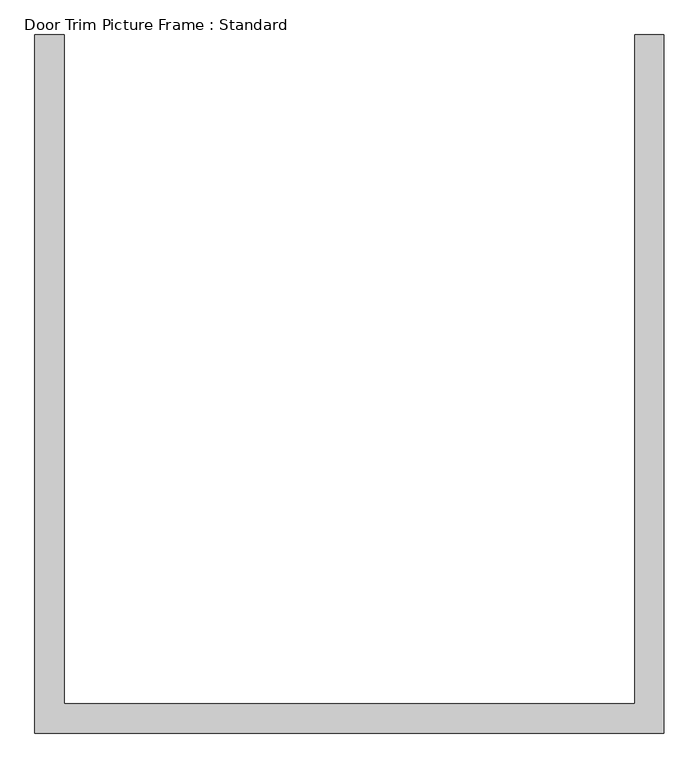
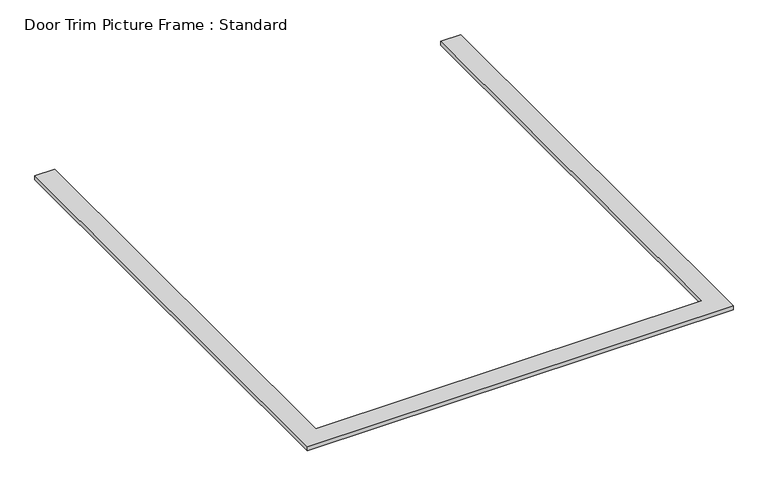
"""IFC4 building model written with IfcOpenShell, lengths in millimetres: proxy geometry, Door Trim Picture Frame : Standard."""

import ifcopenshell
import ifcopenshell.guid

model = None  # the IFC model being written
_history = None  # IfcOwnerHistory: only IFC2X3 demands one
_inside = {}  # id of a spatial element -> (the spatial element, [elements in it])
_under = {}  # id of a project, library or spatial element -> (it, [spatial elements below it])
_declared = {}  # id of a project -> (the project, [libraries it declares])
_typed = {}  # id of a type object -> (the type object, [elements of that type])
_made_of = {}  # id of a material, layer set ... -> (it, [elements and type objects made of it])


def new_model(schema):
    """Start an empty IFC model of exactly this schema.

    Asked for "IFC4X3", IfcOpenShell would pick the latest addendum, in which some entities
    have other attributes; the version numbers below select the first issue.
    IFC2X3 requires an IfcOwnerHistory on every rooted entity: one is made here for all.
    """
    global model, _history
    if schema == "IFC4X3":
        model = ifcopenshell.file(schema_version=(4, 3, 0, 0))
    else:
        model = ifcopenshell.file(schema=schema)
    _inside.clear()
    _under.clear()
    _declared.clear()
    _typed.clear()
    _made_of.clear()
    _history = None
    if model.schema == "IFC2X3":
        org = make("IfcOrganization", Name="unknown")
        user = make(
            "IfcPersonAndOrganization",
            ThePerson=make("IfcPerson", FamilyName="unknown"),
            TheOrganization=org,
        )
        app = make(
            "IfcApplication",
            ApplicationDeveloper=org,
            Version="unknown",
            ApplicationFullName="unknown",
            ApplicationIdentifier="unknown",
        )
        _history = make(
            "IfcOwnerHistory",
            OwningUser=user,
            OwningApplication=app,
            ChangeAction="ADDED",
            CreationDate=0,
        )
    return model


def make(cls, **values):
    """One entity of the class cls with the attributes given. An attribute that is None is left unset."""
    return model.create_entity(
        cls, **{name: value for name, value in values.items() if value is not None}
    )


def rooted(cls, **values):
    """An entity with a GlobalId (a new one), such as an element, a storey or a relation."""
    return make(cls, GlobalId=ifcopenshell.guid.new(), OwnerHistory=_history, **values)


def si_unit(unit_type, name, prefix=None):
    """IfcSIUnit, for example si_unit("LENGTHUNIT", "METRE", prefix="MILLI")."""
    return make("IfcSIUnit", UnitType=unit_type, Prefix=prefix, Name=name)


def assignment(units):
    """IfcUnitAssignment: the units of a project."""
    return None if units is None else make("IfcUnitAssignment", Units=units)


def point(xyz):
    """IfcCartesianPoint."""
    return None if xyz is None else make("IfcCartesianPoint", Coordinates=xyz)


def direction(xyz):
    """IfcDirection."""
    return None if xyz is None else make("IfcDirection", DirectionRatios=xyz)


def frame(location, z_axis=None, x_axis=None):
    """IfcAxis2Placement3D, a coordinate frame: its origin and axes. An axis left out is left unset."""
    return make(
        "IfcAxis2Placement3D",
        Location=point(location),
        Axis=direction(z_axis),
        RefDirection=direction(x_axis),
    )


def origin():
    """The frame at (0, 0, 0) with its axes left unset."""
    return frame((0.0, 0.0, 0.0))


def origin_with_axes():
    """The frame at (0, 0, 0) with the z axis (0, 0, 1) and the x axis (1, 0, 0) written out."""
    return frame((0.0, 0.0, 0.0), z_axis=(0.0, 0.0, 1.0), x_axis=(1.0, 0.0, 0.0))


def place(relative_to, where):
    """IfcLocalPlacement: puts the frame where relative to a parent placement (None: the world)."""
    return make(
        "IfcLocalPlacement", PlacementRelTo=relative_to, RelativePlacement=where
    )


def context(
    kind, dimensions, precision=None, world=None, true_north=None, identifier=None
):
    """IfcGeometricRepresentationContext, for example the 3D "Model" context."""
    return make(
        "IfcGeometricRepresentationContext",
        ContextIdentifier=identifier,
        ContextType=kind,
        CoordinateSpaceDimension=dimensions,
        Precision=precision,
        WorldCoordinateSystem=world,
        TrueNorth=true_north,
    )


def project(units=None, contexts=None):
    """IfcProject with its units and contexts."""
    return rooted(
        "IfcProject",
        Name="project",
        RepresentationContexts=contexts,
        UnitsInContext=assignment(units),
    )


def spatial(cls, under=None, at=None, **own):
    """A site, building, storey or space (cls), placed at a placement, below another one or the project."""
    s = rooted(cls, ObjectPlacement=at, **own)
    if under is not None:
        _under.setdefault(under.id(), (under, []))[1].append(s)
    return s


def polyline(points):
    """IfcPolyline through the points."""
    return make("IfcPolyline", Points=[point(p) for p in points])


def outline(outer, holes=None, kind="AREA"):
    """IfcArbitraryClosedProfileDef: a profile drawn as a closed curve; with holes, ...WithVoids."""
    if holes is None:
        return make("IfcArbitraryClosedProfileDef", ProfileType=kind, OuterCurve=outer)
    return make(
        "IfcArbitraryProfileDefWithVoids",
        ProfileType=kind,
        OuterCurve=outer,
        InnerCurves=holes,
    )


def extrude(swept, where, along, depth):
    """IfcExtrudedAreaSolid: the profile swept, set in the frame where, extruded along a direction by depth."""
    return make(
        "IfcExtrudedAreaSolid",
        SweptArea=swept,
        Position=where,
        ExtrudedDirection=direction(along),
        Depth=depth,
    )


def shape(context_of_items, identifier, shape_type, items):
    """IfcShapeRepresentation: the items that make up one representation, for example the "Body"."""
    return make(
        "IfcShapeRepresentation",
        ContextOfItems=context_of_items,
        RepresentationIdentifier=identifier,
        RepresentationType=shape_type,
        Items=items,
    )


def source(mapping_origin, context_of_items, identifier, shape_type, items):
    """IfcRepresentationMap: a shape defined once, which mapped items show again and again."""
    return make(
        "IfcRepresentationMap",
        MappingOrigin=mapping_origin,
        MappedRepresentation=shape(context_of_items, identifier, shape_type, items),
    )


def transform(
    local_origin,
    x_axis=None,
    y_axis=None,
    z_axis=None,
    scale=None,
    scale2=None,
    scale3=None,
    uniform=True,
):
    """IfcCartesianTransformationOperator3D, or its non-uniform kind. x_axis, y_axis, z_axis: its Axis1, 2, 3."""
    if uniform:
        return make(
            "IfcCartesianTransformationOperator3D",
            Axis1=direction(x_axis),
            Axis2=direction(y_axis),
            LocalOrigin=point(local_origin),
            Scale=scale,
            Axis3=direction(z_axis),
        )
    return make(
        "IfcCartesianTransformationOperator3DnonUniform",
        Axis1=direction(x_axis),
        Axis2=direction(y_axis),
        LocalOrigin=point(local_origin),
        Scale=scale,
        Axis3=direction(z_axis),
        Scale2=scale2,
        Scale3=scale3,
    )


def mapped(mapping_source, mapping_target):
    """IfcMappedItem: shows the shape of a source again, moved by a transform."""
    return make(
        "IfcMappedItem", MappingSource=mapping_source, MappingTarget=mapping_target
    )


def made_of(thing, what):
    """Note that an element or type object is made of a material, layer set ...; save() writes the relation."""
    if what is not None:
        _made_of.setdefault(what.id(), (what, []))[1].append(thing)
    return thing


def element(
    cls,
    number,
    at=None,
    inside=None,
    cuts=None,
    type_object=None,
    material=None,
    context=None,
    identifier="Body",
    shape_type=None,
    held_by="IfcProductDefinitionShape",
    body=None,
    shapes=None,
    **own,
):
    """One element of the class cls, such as IfcWall. Its Tag is "e" and its number.

    at: its placement. inside: the storey or other place that contains it. cuts: it is an
    opening in that element (IfcRelVoidsElement). A single representation is given by context,
    identifier, shape_type and body (its items); several are given by shapes. held_by: the class
    of the entity that holds the representations. save() writes the other relations.
    """
    e = rooted(cls, Tag="e%d" % number, ObjectPlacement=at, **own)
    if body is not None:
        shapes = [shape(context, identifier, shape_type, body)]
    if shapes is not None:
        e.Representation = make(held_by, Representations=shapes)
    if inside is not None:
        _inside.setdefault(inside.id(), (inside, []))[1].append(e)
    if cuts is not None:
        rooted(
            "IfcRelVoidsElement", RelatingBuildingElement=cuts, RelatedOpeningElement=e
        )
    if type_object is not None:
        _typed.setdefault(type_object.id(), (type_object, []))[1].append(e)
    return made_of(e, material)


def aggregate(whole, parts):
    """IfcRelAggregates: a whole, such as a stair, and the parts it consists of."""
    return rooted("IfcRelAggregates", RelatingObject=whole, RelatedObjects=parts)


def save(model, path):
    """Write the relations noted so far, then the file.

    IfcRelAggregates (storeys below a building ...), IfcRelContainedInSpatialStructure (elements
    in a storey), IfcRelDefinesByType, IfcRelAssociatesMaterial and IfcRelDeclares: one each for
    every whole, place, type object, material and project.
    """
    for whole, parts in _under.values():
        aggregate(whole, parts)
    for where, things in _inside.values():
        rooted(
            "IfcRelContainedInSpatialStructure",
            RelatedElements=things,
            RelatingStructure=where,
        )
    for kind, things in _typed.values():
        rooted("IfcRelDefinesByType", RelatedObjects=things, RelatingType=kind)
    for what, things in _made_of.values():
        rooted("IfcRelAssociatesMaterial", RelatedObjects=things, RelatingMaterial=what)
    for by, libraries in _declared.values():
        rooted("IfcRelDeclares", RelatingContext=by, RelatedDefinitions=libraries)
    model.write(path)


def door_trim_picture_frame_standard_b3e087ac(model_context):
    return source(origin(), model_context, "Body", "SweptSolid", [
        extrude(outline(polyline([(-869.95, 2057.4), (-869.95, 19.05), (869.95, 19.05), (869.95, 2057.4), (958.85, 2057.4), (958.85, -69.85), (-958.85, -69.85), (-958.85, 2057.4), (-869.95, 2057.4)])), origin_with_axes(), (0.0, 0.0, 1.0), 19.05),
    ])


if __name__ == "__main__":
    model = new_model("IFC4")
    model_context = context("Model", 3, world=origin())
    ifc_project = project(units=[si_unit("LENGTHUNIT", "METRE", prefix="MILLI")], contexts=[model_context])
    site = spatial("IfcSite", under=ifc_project)
    building = spatial("IfcBuilding", under=site)
    placement = place(None, origin())
    door_trim_picture_frame_standard_shape = door_trim_picture_frame_standard_b3e087ac(model_context)
    element("IfcBuildingElementProxy", 1, Name="Door Trim Picture Frame : Standard", ObjectType="Door Trim Picture Frame : Standard", at=placement, inside=building, context=model_context, shape_type="MappedRepresentation", body=[
        mapped(door_trim_picture_frame_standard_shape, transform((0.0, 0.0, 0.0), x_axis=(1.0, 0.0, 0.0), y_axis=(0.0, 1.0, 0.0), z_axis=(0.0, 0.0, 1.0))),
    ])
    save(model, "model.ifc")
